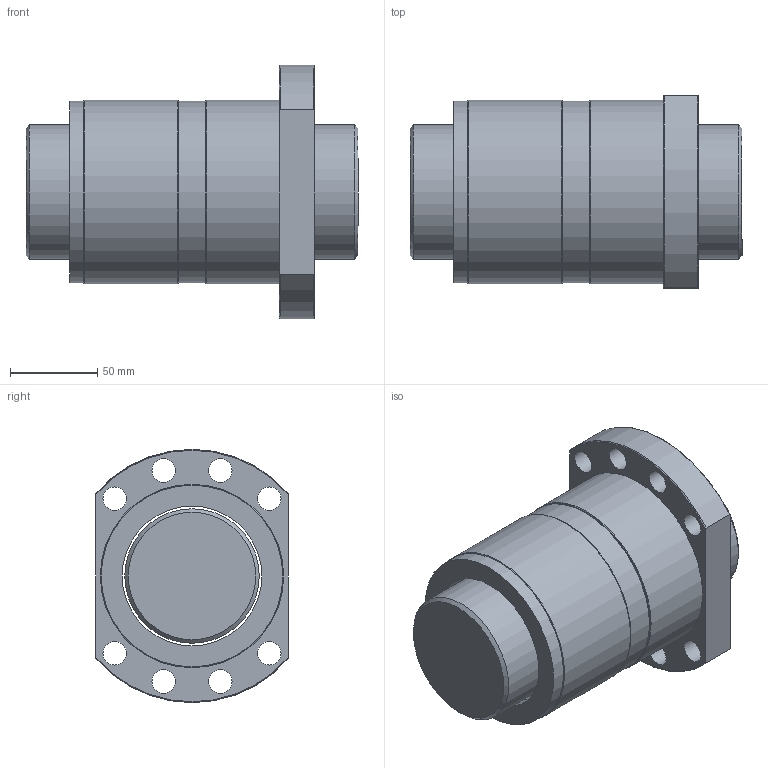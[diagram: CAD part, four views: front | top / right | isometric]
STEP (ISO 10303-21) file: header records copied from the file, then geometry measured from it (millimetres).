
FILE_DESCRIPTION(/* description */ (''),/* implementation_level */ '2;1');
FILE_NAME(/* name */ 'DFS8010',/* time_stamp */ '2007-10-26T14:01:53+08:00',/* author */ (''),/* organization */ (''),/* preprocessor_version */ 'ST-DEVELOPER v9',/* originating_system */ 'UGS - NX 3.0',/* authorisation */ '');
FILE_SCHEMA (('CONFIG_CONTROL_DESIGN'));
Length unit declared in the file: millimetre
Products named in the file (1): jaso15A4i33o
Bounding box: 190 x 110 x 145 mm (x, y, z)
Volume: 1475923 mm3; surface area: 194058.7 mm2
Topology: 6 solids, 6 shells, 49 faces, 98 edges, 63 vertices
Faces by surface type: cylinder 22, plane 16, torus 9, cone 2
Full cylindrical faces by diameter (mm): 13.5 x8, 77 x1, 80 x5, 104 x3, 105 x3
Entity records: 1412 total; most frequent: CARTESIAN_POINT 328, DIRECTION 218, ORIENTED_EDGE 142, AXIS2_PLACEMENT_3D 105, EDGE_LOOP 104, FACE_BOUND 80, EDGE_CURVE 71, VERTEX_POINT 63
